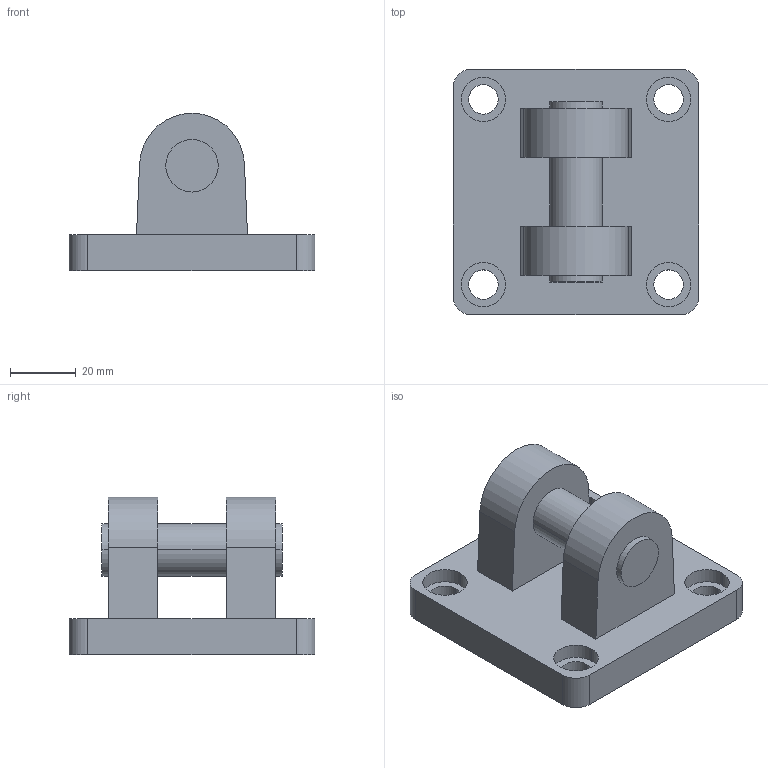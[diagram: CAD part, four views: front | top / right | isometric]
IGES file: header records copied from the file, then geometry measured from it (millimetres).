
Global section: file name: No Iges File Name specified; native system: AutoDesk Inventor R11.0; preprocessor: AutoDesk Inventor Iges Exporter R11.0; author: No Author specified; organization: No Organization specified; date: 20060711.173929; units: millimetre
Bounding box: 75 x 75 x 48 mm (x, y, z)
Volume: 87228.6 mm3; surface area: 23064.7 mm2
Topology: 1 solids, 1 shells, 51 faces, 120 edges, 80 vertices
Faces by surface type: bspline 23, plane 16, cylinder 12
